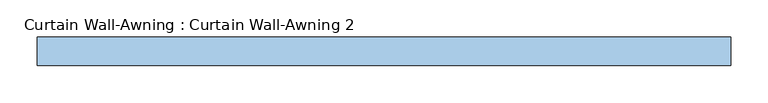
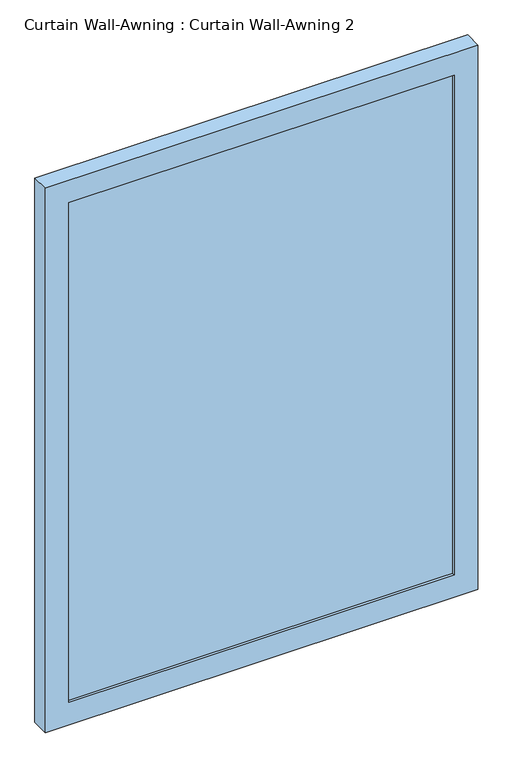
"""IFC4 building model written with IfcOpenShell, lengths in millimetres: window geometry, Curtain Wall-Awning : Curtain Wall-Awning 2."""

from ifc_helpers import new_model, si_unit, frame, origin, place, context, project, spatial, polyline, outline, extrude, source, transform, mapped, element, save


def curtain_wall_awning_curtain_wall_awning_2_79e40004(model_context):
    return source(origin(), model_context, "Body", "SweptSolid", [
        extrude(outline(polyline([(413.8083333, 19.05), (413.8083333, 6.35), (-413.8083333, 6.35), (-413.8083333, 19.05), (413.8083333, 19.05)])), frame((0.0, 0.0, 50.8), z_axis=(0.0, 0.0, 1.0), x_axis=(1.0, 0.0, 0.0)), (0.0, 0.0, 1.0), 1134.635445),
        extrude(outline(polyline([(1236.235445, -464.6083333), (0.0, -464.6083333), (0.0, 464.6083333), (1236.235445, 464.6083333), (1236.235445, -464.6083333)]), holes=[polyline([(1185.435445, -413.8083333), (1185.435445, 413.8083333), (50.8, 413.8083333), (50.8, -413.8083333), (1185.435445, -413.8083333)])]), frame((0.0, 0.0, 0.0), z_axis=(0.0, 1.0, 0.0), x_axis=(0.0, 0.0, 1.0)), (0.0, 0.0, 1.0), 38.1),
    ])


if __name__ == "__main__":
    model = new_model("IFC4")
    model_context = context("Model", 3, world=origin())
    ifc_project = project(units=[si_unit("LENGTHUNIT", "METRE", prefix="MILLI")], contexts=[model_context])
    site = spatial("IfcSite", under=ifc_project)
    building = spatial("IfcBuilding", under=site)
    placement = place(None, origin())
    curtain_wall_awning_curtain_wall_awning_2_shape = curtain_wall_awning_curtain_wall_awning_2_79e40004(model_context)
    element("IfcWindow", 1, ObjectType="Curtain Wall-Awning : Curtain Wall-Awning 2", at=placement, inside=building, context=model_context, shape_type="MappedRepresentation", body=[
        mapped(curtain_wall_awning_curtain_wall_awning_2_shape, transform((0.0, 0.0, 0.0), x_axis=(1.0, 0.0, 0.0), y_axis=(0.0, 1.0, 0.0), z_axis=(0.0, 0.0, 1.0))),
    ])
    save(model, "model.ifc")
